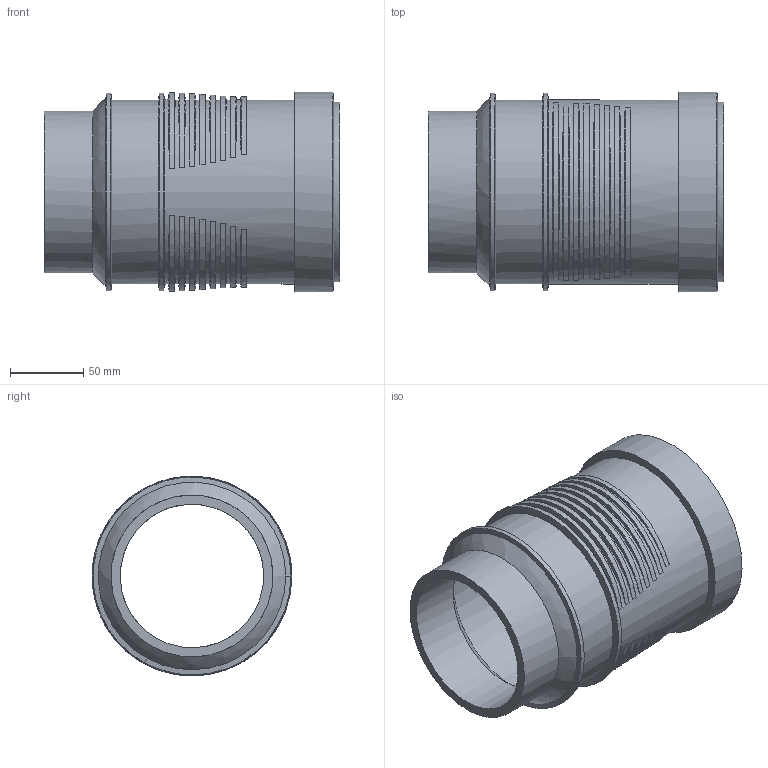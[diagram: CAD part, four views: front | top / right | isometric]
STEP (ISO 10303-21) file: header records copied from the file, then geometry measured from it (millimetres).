
FILE_DESCRIPTION(/* description */ (''),/* implementation_level */ '2;1');
FILE_NAME(/* name */ 'H:\Geberit-Teile\Export\Fertig zum Export\Langmuffen m. Doppelbund\stp\310012.stp',/* time_stamp */ '2017-07-17T11:57:26+02:00',/* author */ ('seihe2'),/* organization */ (''),/* preprocessor_version */ 'ST-DEVELOPER v15.2',/* originating_system */ 'Autodesk Inventor 2014',/* authorisation */ '');
FILE_SCHEMA (('AUTOMOTIVE_DESIGN { 1 0 10303 214 3 1 1 }'));
Length unit declared in the file: millimetre
Products named in the file (1): 310012
Bounding box: 201.61 x 136.33 x 136.33 mm (x, y, z)
Volume: 510055.9 mm3; surface area: 182440.8 mm2
Topology: 1 solids, 1 shells, 80 faces, 241 edges, 179 vertices
Faces by surface type: cone 49, cylinder 27, plane 2, bspline 1, torus 1
Full cylindrical faces by diameter (mm): 97.9 x1, 110.4 x1, 113.1 x1, 113.6 x1, 122.65 x1, 125.4 x1, 125.6 x1, 127.3 x1, 135 x2, 136.35 x1
Entity records: 3671 total; most frequent: CARTESIAN_POINT 1630, ORIENTED_EDGE 418, DIRECTION 340, EDGE_CURVE 209, VERTEX_POINT 166, AXIS2_PLACEMENT_3D 148, EDGE_LOOP 117, B_SPLINE_CURVE_WITH_KNOTS 96
